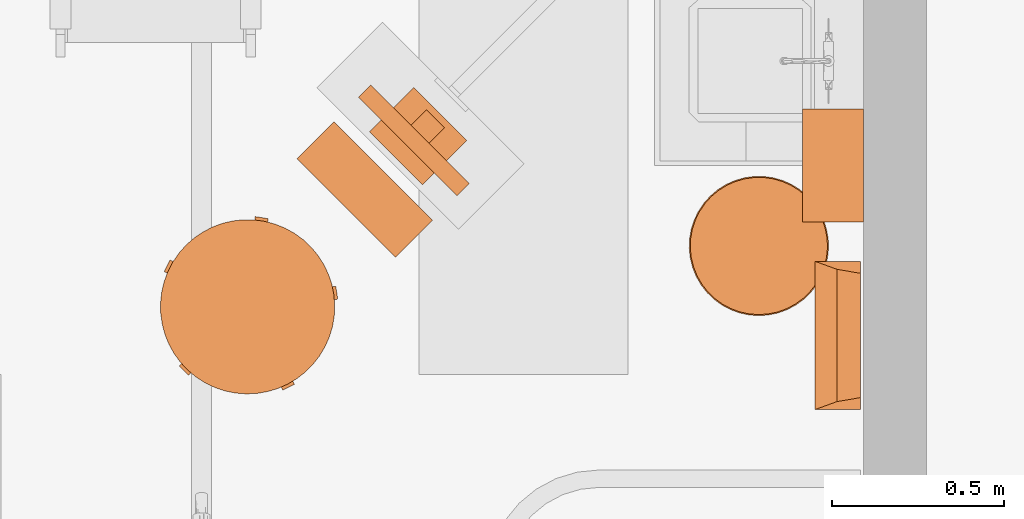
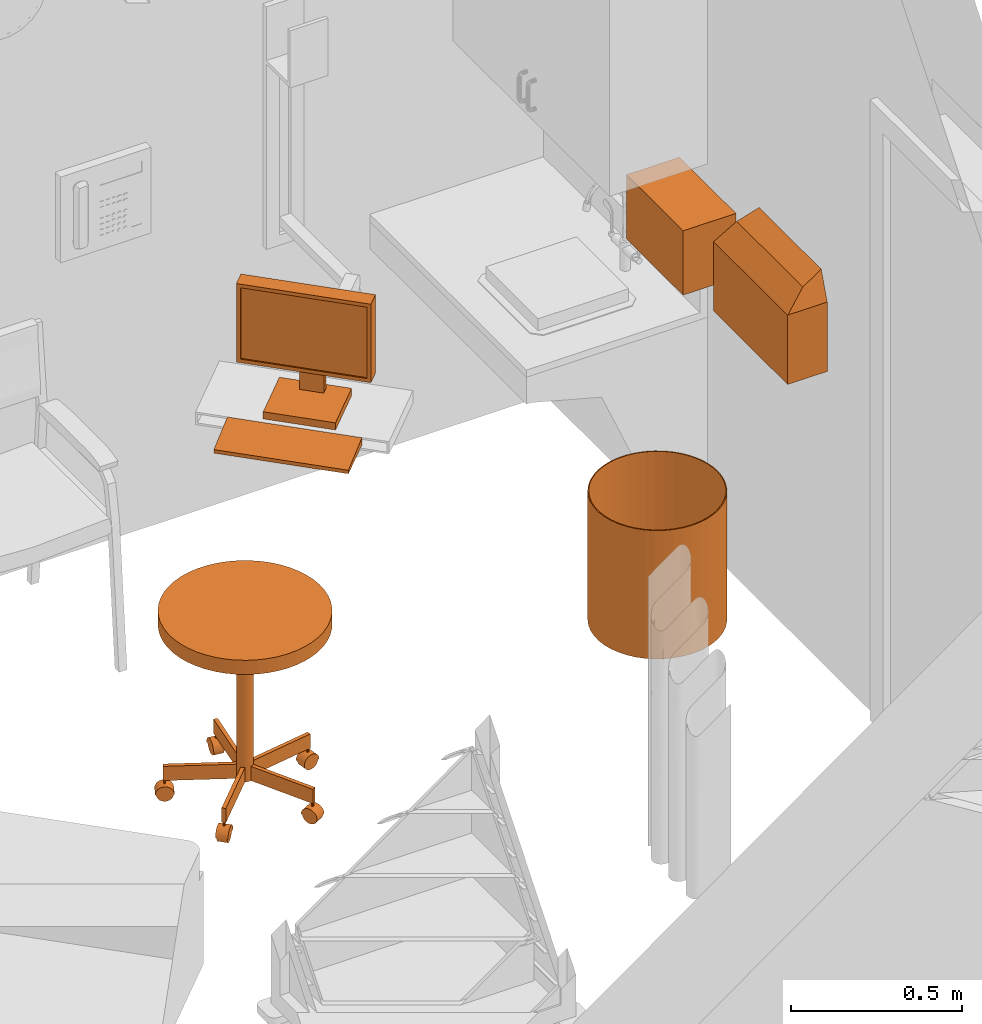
# One storey, part 95 of 142: 5 proxies.
"""IFC2X3 building model written with IfcOpenShell, lengths in feet."""

from ifc_helpers import new_model, entity, si_unit, converted_unit, derived_unit, direction, frame, frame_2d, origin, origin_2d_with_axis, place, context, subcontext, project, spatial, polyline, circle_curve, parameter, trimmed, segment, composite_curve, rectangle, circle, hollow_circle, outline, extrude, faceted_brep, source, transform, mapped, type_object, type_shapes, element, save


model = new_model("IFC2X3")

# Units and contexts
model_context = context("Model", 3, precision=0.0001, world=origin(), true_north=direction((6.12303176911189e-17, 1.0)))
body_context = subcontext(model_context, "Body", "Model", "MODEL_VIEW")
ifc_project = project(units=[converted_unit("LENGTHUNIT", "FOOT", entity("IfcRatioMeasure", 0.3048), si_unit("LENGTHUNIT", "METRE"), dimensions=[1, 0, 0, 0, 0, 0, 0]), converted_unit("AREAUNIT", "SQUARE FOOT", entity("IfcRatioMeasure", 0.09290304), si_unit("AREAUNIT", "SQUARE_METRE"), dimensions=[2, 0, 0, 0, 0, 0, 0]), converted_unit("VOLUMEUNIT", "CUBIC FOOT", entity("IfcRatioMeasure", 0.028316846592), si_unit("VOLUMEUNIT", "CUBIC_METRE"), dimensions=[3, 0, 0, 0, 0, 0, 0]), converted_unit("PLANEANGLEUNIT", "DEGREE", entity("IfcRatioMeasure", 0.0174532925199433), si_unit("PLANEANGLEUNIT", "RADIAN"), dimensions=[0, 0, 0, 0, 0, 0, 0]), si_unit("MASSUNIT", "GRAM", prefix="KILO"), derived_unit("MASSDENSITYUNIT", [(si_unit("MASSUNIT", "GRAM", prefix="KILO"), 1), (si_unit("LENGTHUNIT", "METRE"), -3)]), si_unit("TIMEUNIT", "SECOND"), si_unit("FREQUENCYUNIT", "HERTZ"), si_unit("THERMODYNAMICTEMPERATUREUNIT", "DEGREE_CELSIUS"), derived_unit("THERMALTRANSMITTANCEUNIT", [(si_unit("MASSUNIT", "GRAM", prefix="KILO"), 1), (si_unit("THERMODYNAMICTEMPERATUREUNIT", "KELVIN"), -1), (si_unit("TIMEUNIT", "SECOND"), -3)]), derived_unit("VOLUMETRICFLOWRATEUNIT", [(si_unit("LENGTHUNIT", "METRE"), 3), (si_unit("TIMEUNIT", "SECOND"), -1)]), si_unit("ELECTRICCURRENTUNIT", "AMPERE"), si_unit("ELECTRICVOLTAGEUNIT", "VOLT"), si_unit("POWERUNIT", "WATT"), si_unit("FORCEUNIT", "NEWTON"), si_unit("ILLUMINANCEUNIT", "LUX"), si_unit("LUMINOUSFLUXUNIT", "LUMEN"), si_unit("LUMINOUSINTENSITYUNIT", "CANDELA"), derived_unit("USERDEFINED", [(si_unit("MASSUNIT", "GRAM", prefix="KILO"), -1), (si_unit("LENGTHUNIT", "METRE"), -2), (si_unit("TIMEUNIT", "SECOND"), 3), (si_unit("LUMINOUSFLUXUNIT", "LUMEN"), 1)]), derived_unit("LINEARVELOCITYUNIT", [(si_unit("LENGTHUNIT", "METRE"), 1), (si_unit("TIMEUNIT", "SECOND"), -1)]), si_unit("PRESSUREUNIT", "PASCAL"), derived_unit("USERDEFINED", [(si_unit("LENGTHUNIT", "METRE"), -2), (si_unit("MASSUNIT", "GRAM", prefix="KILO"), 1), (si_unit("TIMEUNIT", "SECOND"), -2)])], contexts=[model_context])

# Site, building, storey, space
site_placement = place(None, origin())
site = spatial("IfcSite", under=ifc_project, at=site_placement, Name="Default", CompositionType="ELEMENT")
building_placement = place(site_placement, origin())
building = spatial("IfcBuilding", under=site, at=building_placement, Name="OUTPATIENT / PACT CLINIC (Ch. 265)", CompositionType="ELEMENT")
storey_placement = place(building_placement, origin())
storey = spatial("IfcBuildingStorey", under=building, at=storey_placement, Name="LEVEL 1", CompositionType="ELEMENT", Elevation=0.0)
space_placement = place(storey_placement, origin())
space = spatial("IfcSpace", under=storey, at=space_placement, Name="EXPA01", CompositionType="ELEMENT", InteriorOrExteriorSpace="INTERNAL")

# Proxies
building_element_proxy_type_1 = type_object("IfcBuildingElementProxyType", Name="F2000 - Basket, Wastepaper", PredefinedType="NOTDEFINED")
shared_shape_1 = source(origin(), body_context, "Body", "SweptSolid", [
    extrude(circle(Radius=0.666666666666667, at=frame_2d((0.0, -1.07702971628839e-15), x_axis=(1.0, 0.0))), origin(), (0.0, 0.0, 1.0), 0.0104166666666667),
    extrude(hollow_circle(Radius=0.666666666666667, WallThickness=0.0104166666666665, at=frame_2d((0.0, -1.07702971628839e-15), x_axis=(1.0, 0.0))), frame((0.0, 0.0, 0.0104166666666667)), (0.0, 0.0, 1.0), 1.48958333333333),
])
type_shapes(building_element_proxy_type_1, [shared_shape_1])
proxy_1_placement = place(space_placement, frame((402.463309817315, -914.606187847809, 0.0), z_axis=(0.0, 0.0, 1.0), x_axis=(0.0, -1.0, 0.0)))
element("IfcBuildingElementProxy", 1, at=proxy_1_placement, inside=space, type_object=building_element_proxy_type_1, Name="F2000 - Basket, Wastepaper:F2000 - Basket, Wastepaper", ObjectType="F2000 - Basket, Wastepaper", context=body_context, shape_type="MappedRepresentation", body=[
    mapped(shared_shape_1, transform((0.0, 0.0, 0.0), scale=1.0)),
])
building_element_proxy_type_2 = type_object("IfcBuildingElementProxyType", Name="A5108 - Waste Disposal Unit, Sharps 17\"x 13\"", PredefinedType="NOTDEFINED")
shared_shape_2 = source(origin(), body_context, "Body", "Brep", [
    faceted_brep([(0.70833333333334, 0.0, 0.0), (-0.708333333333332, 0.0, 0.0), (-0.708333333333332, 0.437500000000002, 0.0), (0.70833333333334, 0.437500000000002, 0.0), (0.70833333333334, 0.437500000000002, 0.810989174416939), (0.70833333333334, 0.0025667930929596, 0.810989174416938), (0.70833333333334, 0.0, 0.808422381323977), (-0.708333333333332, 0.437500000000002, 0.810989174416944), (-0.594042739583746, 0.437500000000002, 1.125), (0.594042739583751, 0.437500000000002, 1.125), (-0.708333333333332, 0.0, 0.808422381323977), (-0.708333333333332, 0.00256679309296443, 0.810989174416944), (0.632497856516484, 0.210923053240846, 1.01934543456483), (-0.632497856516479, 0.210923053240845, 1.01934543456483)], [[[0, 1, 2, 3]], [[0, 3, 4, 5, 6]], [[3, 2, 7, 8, 9, 4]], [[2, 1, 10, 11, 7]], [[1, 0, 6, 10]], [[10, 6, 5, 12, 13, 11]], [[12, 9, 8, 13]], [[5, 4, 9, 12]], [[8, 7, 11, 13]]]),
])
type_shapes(building_element_proxy_type_2, [shared_shape_2])
proxy_2_placement = place(storey_placement, frame((402.999768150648, -915.462185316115, 3.5), z_axis=(0.0, 0.0, 1.0), x_axis=(0.0, -1.0, 0.0)))
element("IfcBuildingElementProxy", 2, at=proxy_2_placement, inside=storey, type_object=building_element_proxy_type_2, Name="A5108 - Waste Disposal Unit, Sharps1:A5108 - Waste Disposal Unit, Sharps 17\"x 13\"", ObjectType="A5108 - Waste Disposal Unit, Sharps 17\"x 13\"", context=body_context, shape_type="MappedRepresentation", body=[
    mapped(shared_shape_2, transform((0.0, 0.0, 0.0), scale=1.0)),
])
building_element_proxy_type_3 = type_object("IfcBuildingElementProxyType", Name="A5080 - Dispenser, Paper Towel", PredefinedType="NOTDEFINED")
shared_shape_3 = source(origin(), body_context, "Body", "SweptSolid", [
    extrude(rectangle(XDim=0.58333333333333, YDim=1.08333333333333, at=frame_2d((9.99200722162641e-16, 0.0), x_axis=(1.0, 0.0))), frame((0.0, -0.291666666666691, 0.0), z_axis=(0.0, 0.0, 1.0), x_axis=(0.0, 1.0, 0.0)), (0.0, 0.0, 1.0), 0.75),
])
type_shapes(building_element_proxy_type_3, [shared_shape_3])
proxy_3_placement = place(space_placement, frame((403.463309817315, -913.837185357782, 3.5), z_axis=(0.0, 0.0, 1.0), x_axis=(0.0, -1.0, 0.0)))
element("IfcBuildingElementProxy", 3, at=proxy_3_placement, inside=space, type_object=building_element_proxy_type_3, Name="A5080 - Dispenser, Paper Towel:A5080 - Dispenser, Paper Towel", ObjectType="A5080 - Dispenser, Paper Towel", context=body_context, shape_type="MappedRepresentation", body=[
    mapped(shared_shape_3, transform((0.0, 0.0, 0.0), scale=1.0)),
])
building_element_proxy_type_4 = type_object("IfcBuildingElementProxyType", Name="M1801 - Computer with Flat Panel Monitor", PredefinedType="NOTDEFINED")
shared_shape_4 = source(origin(), body_context, "Body", "Brep", [
    faceted_brep([(0.666666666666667, -0.5625, 0.0), (0.666666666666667, -0.0624999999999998, 0.0), (0.666666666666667, -0.0624999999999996, 0.0833333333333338), (0.666666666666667, -0.5625, 0.0416666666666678), (-0.666666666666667, -0.5625, 0.0), (-0.666666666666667, -0.5625, 0.0416666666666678), (-0.666666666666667, -0.0624999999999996, 0.0833333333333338), (-0.666666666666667, -0.0624999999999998, 0.0)], [[[0, 1, 2, 3]], [[4, 5, 6, 7]], [[1, 0, 4, 7]], [[2, 1, 7, 6]], [[3, 2, 6, 5]], [[0, 3, 5, 4]]]),
    faceted_brep([(0.666666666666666, 0.437223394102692, 1.41666666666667), (-0.666666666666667, 0.437223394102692, 1.41666666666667), (-0.666666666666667, 0.271109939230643, 1.41666666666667), (0.666666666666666, 0.271109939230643, 1.41666666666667), (0.666666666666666, 0.437223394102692, 0.500000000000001), (0.666666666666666, 0.271109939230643, 0.500000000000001), (-0.666666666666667, 0.271109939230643, 0.500000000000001), (-0.666666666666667, 0.437223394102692, 0.500000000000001), (-0.625, 0.271109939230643, 1.375), (0.625, 0.271109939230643, 1.375), (0.625, 0.271109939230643, 0.541666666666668), (-0.625, 0.271109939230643, 0.541666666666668), (0.625, 0.286812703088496, 1.375), (-0.625, 0.286812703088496, 1.375), (0.625, 0.286812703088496, 0.541666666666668), (-0.625, 0.286812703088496, 0.541666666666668)], [[[0, 1, 2, 3]], [[4, 5, 6, 7]], [[1, 0, 4, 7]], [[2, 1, 7, 6]], [[3, 2, 6, 5], [8, 9, 10, 11]], [[0, 3, 5, 4]], [[12, 9, 8, 13]], [[14, 15, 11, 10]], [[12, 13, 15, 14]], [[13, 8, 11, 15]], [[9, 12, 14, 10]]]),
    faceted_brep([(0.358011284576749, 0.111770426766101, 0.0833333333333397), (0.358011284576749, 0.111770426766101, 0.0), (0.358011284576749, 0.708333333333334, 0.0), (0.358011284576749, 0.708333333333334, 0.0833333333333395), (-0.358011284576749, 0.708333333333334, 0.0833333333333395), (-0.358011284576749, 0.708333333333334, 0.0), (-0.358011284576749, 0.111770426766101, 0.0), (-0.358011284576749, 0.111770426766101, 0.0833333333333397), (0.12128795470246, 0.645556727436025, 0.104166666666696), (0.12128795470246, 0.645556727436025, 0.0833333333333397), (-0.12128795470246, 0.645556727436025, 0.0833333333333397), (-0.12128795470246, 0.645556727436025, 0.104166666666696), (0.12128795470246, 0.645556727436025, 0.958333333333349), (-0.12128795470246, 0.645556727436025, 0.958333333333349), (0.12128795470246, 0.437223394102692, 0.958333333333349), (-0.12128795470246, 0.437223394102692, 0.958333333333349), (0.12128795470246, 0.437223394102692, 0.791666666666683), (-0.12128795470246, 0.437223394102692, 0.791666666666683), (0.12128795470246, 0.562223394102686, 0.791666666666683), (-0.12128795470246, 0.562223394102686, 0.791666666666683), (0.12128795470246, 0.562223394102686, 0.0833333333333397), (-0.12128795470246, 0.562223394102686, 0.0833333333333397)], [[[0, 1, 2, 3]], [[4, 5, 6, 7]], [[8, 9, 10, 11]], [[12, 8, 11, 13]], [[14, 12, 13, 15]], [[16, 14, 15, 17]], [[18, 16, 17, 19]], [[20, 18, 19, 21]], [[0, 3, 4, 7], [9, 20, 21, 10]], [[1, 0, 7, 6]], [[2, 1, 6, 5]], [[3, 2, 5, 4]], [[20, 9, 8, 12, 14, 16, 18]], [[10, 21, 19, 17, 15, 13, 11]]]),
])
type_shapes(building_element_proxy_type_4, [shared_shape_4])
proxy_4_placement = place(space_placement, frame((398.914565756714, -913.846346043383, 2.9791666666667), z_axis=(0.0, 0.0, 1.0), x_axis=(0.707106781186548, -0.707106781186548, 0.0)))
element("IfcBuildingElementProxy", 4, at=proxy_4_placement, inside=space, type_object=building_element_proxy_type_4, Name="M1801 - Computer with Flat Panel Monitor1:M1801 - Computer with Flat Panel Monitor", ObjectType="M1801 - Computer with Flat Panel Monitor", context=body_context, shape_type="MappedRepresentation", body=[
    mapped(shared_shape_4, transform((0.0, 0.0, 0.0), scale=1.0)),
])
building_element_proxy_type_5 = type_object("IfcBuildingElementProxyType", Name="F0340 - Stool, Self Adjusting", PredefinedType="NOTDEFINED")
shared_shape_5 = source(origin(), body_context, "Body", "SweptSolid", [
    extrude(circle(Radius=0.084518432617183, at=frame_2d((0.0, -1.38777878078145e-16), x_axis=(1.0, 0.0))), frame((0.717011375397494, 0.287734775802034, 0.0845184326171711), z_axis=(0.309016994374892, -0.951056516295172, 0.0), x_axis=(-0.951056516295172, -0.309016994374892, 0.0)), (0.0, 0.0, 1.0), 0.104166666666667),
    extrude(outline(composite_curve([segment(polyline([(-0.0925649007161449, 0.0), (0.0925649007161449, 0.0)]), True, "CONTINUOUS"), segment(trimmed(circle_curve(origin_2d_with_axis(), 0.0925649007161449), [parameter(2.03555499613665e-13)], [parameter(180.0)], True, "PARAMETER"), True, "CONTINUOUS")], self_intersect=False)), frame((0.752419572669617, 0.178759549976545, 0.0845184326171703), z_axis=(-0.309016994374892, 0.951056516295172, 0.0), x_axis=(-0.951056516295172, -0.309016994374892, 0.0)), (0.0, 0.0, 1.0), 0.125),
    extrude(circle(Radius=0.0115130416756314, at=frame_2d((7.9106571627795e-18, 1.14165428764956e-16), x_axis=(1.0, 0.0))), frame((0.73310678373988, 0.238198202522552, 0.177083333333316), z_axis=(0.0, 0.0, 1.0), x_axis=(0.309016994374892, -0.951056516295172, 0.0)), (0.0, 0.0, 1.0), 0.0442708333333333),
    extrude(rectangle(XDim=0.0416641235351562, YDim=0.7059128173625, at=frame_2d((1.38777878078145e-17, 0.0), x_axis=(1.0, 0.0))), frame((0.412570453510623, 0.134049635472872, 0.221354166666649), z_axis=(0.0, 0.0, 1.0), x_axis=(-0.309016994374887, 0.951056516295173, 0.0)), (0.0, 0.0, 1.0), 0.166666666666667),
    extrude(circle(Radius=0.084518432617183, at=frame_2d((0.0, -3.7470027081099e-16), x_axis=(1.0, 0.0))), frame((0.410948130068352, -0.654231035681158, 0.0845184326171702), z_axis=(0.809016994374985, 0.587785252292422, 0.0), x_axis=(-0.587785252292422, 0.809016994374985, 0.0)), (0.0, 0.0, 1.0), 0.104166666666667),
    extrude(outline(composite_curve([segment(polyline([(-0.0925649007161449, 0.0), (0.0925649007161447, 0.0)]), True, "CONTINUOUS"), segment(trimmed(circle_curve(origin_2d_with_axis(), 0.0925649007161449), [parameter(2.03555499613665e-13)], [parameter(180.0)], True, "PARAMETER"), True, "CONTINUOUS")], self_intersect=False)), frame((0.402520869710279, -0.660353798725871, 0.0845184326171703), z_axis=(0.809016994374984, 0.587785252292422, 0.0), x_axis=(-0.587785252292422, 0.809016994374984, 0.0)), (0.0, 0.0, 1.0), 0.125),
    extrude(circle(Radius=0.0115130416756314, at=origin_2d_with_axis()), frame((0.453082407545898, -0.623618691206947, 0.177083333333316), z_axis=(0.0, 0.0, 1.0), x_axis=(-0.809016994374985, -0.587785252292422, 0.0)), (0.0, 0.0, 1.0), 0.0442708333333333),
    extrude(rectangle(XDim=0.0416641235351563, YDim=0.705912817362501, at=frame_2d((0.0, -1.38777878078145e-16), x_axis=(1.0, 0.0))), frame((0.254980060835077, -0.350954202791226, 0.221354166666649), z_axis=(0.0, 0.0, 1.0), x_axis=(0.809016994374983, 0.587785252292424, 0.0)), (0.0, 0.0, 1.0), 0.166666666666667),
    extrude(circle(Radius=0.084518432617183, at=frame_2d((-3.2628636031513e-17, -1.38777878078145e-16), x_axis=(1.0, 0.0))), frame((-0.410948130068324, -0.654231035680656, 0.0845184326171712), z_axis=(-0.809016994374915, 0.587785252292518, 0.0), x_axis=(0.587785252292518, 0.809016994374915, 0.0)), (0.0, 0.0, 1.0), 0.104166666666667),
    extrude(outline(composite_curve([segment(trimmed(circle_curve(origin_2d_with_axis(), 0.0925649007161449), [parameter(180.0)], [parameter(360.0)], True, "PARAMETER"), True, "CONTINUOUS"), segment(polyline([(0.0925649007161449, 0.0), (-0.0925649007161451, 0.0)]), True, "CONTINUOUS")], self_intersect=False)), frame((-0.402520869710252, -0.66035379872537, 0.0845184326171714), z_axis=(-0.809016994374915, 0.587785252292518, 0.0), x_axis=(0.587785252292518, 0.809016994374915, 0.0)), (0.0, 0.0, 1.0), 0.125),
    extrude(circle(Radius=0.0115130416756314, at=frame_2d((-4.49094647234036e-17, -3.2628636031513e-17), x_axis=(1.0, 0.0))), frame((-0.453086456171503, -0.623615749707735, 0.177083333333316), z_axis=(0.0, 0.0, 1.0), x_axis=(-0.809016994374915, 0.587785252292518, 0.0)), (0.0, 0.0, 1.0), 0.0442708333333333),
    extrude(rectangle(XDim=0.0416641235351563, YDim=0.7059128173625, at=frame_2d((-4.16333634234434e-17, 5.55111512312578e-17), x_axis=(1.0, 0.0))), frame((-0.254984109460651, -0.350951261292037, 0.221354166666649), z_axis=(0.0, 0.0, 1.0), x_axis=(0.809016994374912, -0.587785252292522, 0.0)), (0.0, 0.0, 1.0), 0.166666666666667),
    extrude(circle(Radius=0.084518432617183, at=frame_2d((0.0, -1.38777878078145e-16), x_axis=(1.0, 0.0))), frame((-0.749200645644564, 0.188666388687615, 0.0845184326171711), z_axis=(0.309016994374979, 0.951056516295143, 0.0), x_axis=(0.951056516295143, -0.309016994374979, 0.0)), (0.0, 0.0, 1.0), 0.104166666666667),
    extrude(outline(composite_curve([segment(trimmed(circle_curve(origin_2d_with_axis(), 0.0925649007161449), [parameter(180.0)], [parameter(360.0)], True, "PARAMETER"), True, "CONTINUOUS"), segment(polyline([(0.0925649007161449, 0.0), (-0.0925649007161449, 0.0)]), True, "CONTINUOUS")], self_intersect=False)), frame((-0.752419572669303, 0.178759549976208, 0.0845184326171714), z_axis=(0.309016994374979, 0.951056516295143, 0.0), x_axis=(0.951056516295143, -0.309016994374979, 0.0)), (0.0, 0.0, 1.0), 0.125),
    extrude(circle(Radius=0.0115130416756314, at=frame_2d((7.91065716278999e-18, -1.14165428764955e-16), x_axis=(1.0, 0.0))), frame((-0.733105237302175, 0.238202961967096, 0.177083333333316), z_axis=(0.0, 0.0, 1.0), x_axis=(0.309016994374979, 0.951056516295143, 0.0)), (0.0, 0.0, 1.0), 0.0442708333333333),
    extrude(rectangle(XDim=0.0416641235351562, YDim=0.7059128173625, at=origin_2d_with_axis()), frame((-0.412568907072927, 0.134054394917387, 0.221354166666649), z_axis=(0.0, 0.0, 1.0), x_axis=(-0.309016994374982, -0.951056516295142, 0.0)), (0.0, 0.0, 1.0), 0.166666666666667),
    extrude(circle(Radius=0.084518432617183, at=frame_2d((-1.76415182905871e-31, -1.38777878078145e-16), x_axis=(1.0, 0.0))), frame((-0.0520833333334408, 0.770833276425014, 0.0845184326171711), z_axis=(1.0, 0.0, 0.0), x_axis=(0.0, -1.0, 0.0)), (0.0, 0.0, 1.0), 0.104166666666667),
    extrude(outline(composite_curve([segment(trimmed(circle_curve(origin_2d_with_axis(), 0.0925649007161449), [parameter(180.0)], [parameter(360.0)], True, "PARAMETER"), True, "CONTINUOUS"), segment(polyline([(0.0925649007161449, 0.0), (-0.0925649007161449, 0.0)]), True, "CONTINUOUS")], self_intersect=False)), frame((-0.0625000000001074, 0.770833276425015, 0.0845184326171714), z_axis=(1.0, 0.0, 0.0), x_axis=(0.0, -1.0, 0.0)), (0.0, 0.0, 1.0), 0.125),
    extrude(circle(Radius=0.0115130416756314, at=frame_2d((7.04731412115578e-19, 1.79171670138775e-32), x_axis=(1.0, 0.0))), frame((2.50218814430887e-06, 0.770833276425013, 0.177083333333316)), (0.0, 0.0, 1.0), 0.0442708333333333),
    extrude(rectangle(XDim=0.0416641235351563, YDim=0.7059128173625, at=frame_2d((3.46944695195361e-18, 5.55111512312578e-17), x_axis=(1.0, 0.0))), frame((2.50218813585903e-06, 0.433801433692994, 0.221354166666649), z_axis=(0.0, 0.0, 1.0), x_axis=(-1.0, 0.0, 0.0)), (0.0, 0.0, 1.0), 0.166666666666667),
    extrude(circle(Radius=0.0834863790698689, at=frame_2d((2.89333175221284e-18, -1.34875966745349e-16), x_axis=(1.0, 0.0))), frame((0.0, 0.0, 0.221354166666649)), (0.0, 0.0, 1.0), 1.77864583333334),
    extrude(circle(Radius=0.833333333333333, at=frame_2d((2.28760446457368e-17, -1.34628714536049e-15), x_axis=(1.0, 0.0))), frame((0.0, 0.0, 2.0)), (0.0, 0.0, 1.0), 0.166666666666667),
])
type_shapes(building_element_proxy_type_5, [shared_shape_5])
proxy_5_placement = place(space_placement, frame((397.573053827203, -915.187857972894, 0.0), z_axis=(0.0, 0.0, 1.0), x_axis=(-0.707106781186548, 0.707106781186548, 0.0)))
element("IfcBuildingElementProxy", 5, at=proxy_5_placement, inside=space, type_object=building_element_proxy_type_5, Name="F0340 - Stool, Self Adjusting:F0340 - Stool, Self Adjusting", ObjectType="F0340 - Stool, Self Adjusting", context=body_context, shape_type="MappedRepresentation", body=[
    mapped(shared_shape_5, transform((0.0, 0.0, 0.0), scale=1.0)),
])

save(model, "model.ifc")
